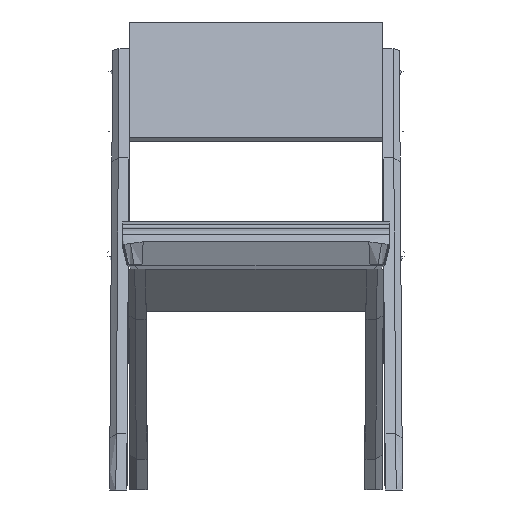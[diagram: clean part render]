
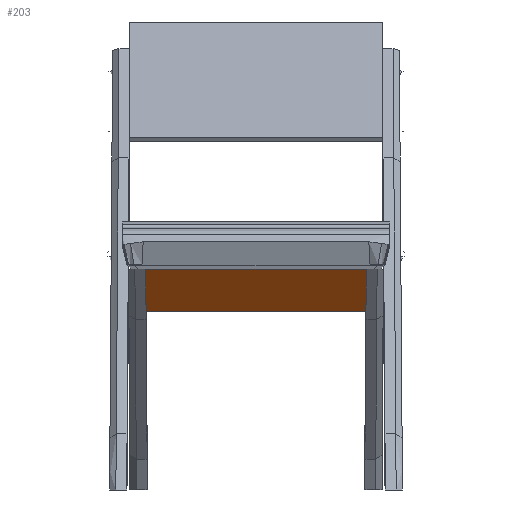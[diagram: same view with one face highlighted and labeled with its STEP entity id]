
A CAD part, front view. The second image highlights one B-rep face of the part: STEP entity #203.
In plain terms, the highlighted free-form (B-spline) face has degree [3, 3] with [4, 4] control points.
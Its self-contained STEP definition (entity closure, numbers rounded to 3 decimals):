
#203=ADVANCED_FACE('',(#421),#3177,.T.);
#421=FACE_OUTER_BOUND('',#643,.T.);
#643=EDGE_LOOP('',(#1103,#1104,#1105,#1106));
#1103=ORIENTED_EDGE('',*,*,#2122,.T.);
#1104=ORIENTED_EDGE('',*,*,#2128,.T.);
#1105=ORIENTED_EDGE('',*,*,#2121,.T.);
#1106=ORIENTED_EDGE('',*,*,#1971,.T.);
#1971=EDGE_CURVE('',#2935,#2937,#2452,.T.);
#2121=EDGE_CURVE('',#3025,#2935,#2602,.T.);
#2122=EDGE_CURVE('',#2937,#3026,#2603,.T.);
#2128=EDGE_CURVE('',#3026,#3025,#2609,.T.);
#2452=B_SPLINE_CURVE_WITH_KNOTS('',3,(#14265,#14266,#14267,#14268),
 .UNSPECIFIED.,.F.,.F.,(4,4),(-0.998,-0.002),
 .UNSPECIFIED.);
#2602=B_SPLINE_CURVE_WITH_KNOTS('',3,(#15323,#15324,#15325,#15326),
 .UNSPECIFIED.,.F.,.F.,(4,4),(0.,90.002),.UNSPECIFIED.);
#2603=B_SPLINE_CURVE_WITH_KNOTS('',3,(#15327,#15328,#15329,#15330),
 .UNSPECIFIED.,.F.,.F.,(4,4),(0.,90.002),
 .UNSPECIFIED.);
#2609=B_SPLINE_CURVE_WITH_KNOTS('',3,(#15351,#15352,#15353,#15354),
 .UNSPECIFIED.,.F.,.F.,(4,4),(0.004,0.996),
 .UNSPECIFIED.);
#2935=VERTEX_POINT('',#14161);
#2937=VERTEX_POINT('',#14163);
#3025=VERTEX_POINT('',#14251);
#3026=VERTEX_POINT('',#14252);
#3177=B_SPLINE_SURFACE_WITH_KNOTS('',3,3,((#11693,#11694,#11695,#11696),
(#11697,#11698,#11699,#11700),(#11701,#11702,#11703,#11704),(#11705,#11706,
#11707,#11708)),.UNSPECIFIED.,.F.,.F.,.F.,(4,4),(4,4),(0.,1.),(0.,1.),
 .UNSPECIFIED.);
#11693=CARTESIAN_POINT('',(-174.406,-59.52,347.68));
#11694=CARTESIAN_POINT('',(-58.135,-59.52,347.68));
#11695=CARTESIAN_POINT('',(58.135,-59.52,347.68));
#11696=CARTESIAN_POINT('',(174.406,-59.52,347.68));
#11697=CARTESIAN_POINT('',(-174.406,-39.174,325.634));
#11698=CARTESIAN_POINT('',(-58.135,-39.174,325.634));
#11699=CARTESIAN_POINT('',(58.135,-39.174,325.634));
#11700=CARTESIAN_POINT('',(174.406,-39.174,325.634));
#11701=CARTESIAN_POINT('',(-174.406,-18.828,303.587));
#11702=CARTESIAN_POINT('',(-58.135,-18.828,303.587));
#11703=CARTESIAN_POINT('',(58.135,-18.828,303.587));
#11704=CARTESIAN_POINT('',(174.406,-18.828,303.587));
#11705=CARTESIAN_POINT('',(-174.406,1.518,281.541));
#11706=CARTESIAN_POINT('',(-58.135,1.518,281.541));
#11707=CARTESIAN_POINT('',(58.135,1.518,281.541));
#11708=CARTESIAN_POINT('',(174.406,1.518,281.541));
#14161=CARTESIAN_POINT('',(173.62,-59.52,347.68));
#14163=CARTESIAN_POINT('',(-173.62,-59.52,347.68));
#14251=CARTESIAN_POINT('',(173.098,1.518,281.541));
#14252=CARTESIAN_POINT('',(-173.098,1.518,281.541));
#14265=CARTESIAN_POINT('',(173.62,-59.52,347.68));
#14266=CARTESIAN_POINT('',(57.873,-59.52,347.68));
#14267=CARTESIAN_POINT('',(-57.873,-59.52,347.68));
#14268=CARTESIAN_POINT('',(-173.62,-59.52,347.68));
#15323=CARTESIAN_POINT('',(173.098,1.518,281.541));
#15324=CARTESIAN_POINT('',(173.272,-18.828,303.587));
#15325=CARTESIAN_POINT('',(173.446,-39.174,325.633));
#15326=CARTESIAN_POINT('',(173.62,-59.52,347.68));
#15327=CARTESIAN_POINT('',(-173.62,-59.52,347.68));
#15328=CARTESIAN_POINT('',(-173.446,-39.174,325.633));
#15329=CARTESIAN_POINT('',(-173.272,-18.828,303.587));
#15330=CARTESIAN_POINT('',(-173.098,1.518,281.541));
#15351=CARTESIAN_POINT('',(-173.098,1.518,281.541));
#15352=CARTESIAN_POINT('',(-57.699,1.518,281.541));
#15353=CARTESIAN_POINT('',(57.699,1.518,281.541));
#15354=CARTESIAN_POINT('',(173.098,1.518,281.541));
